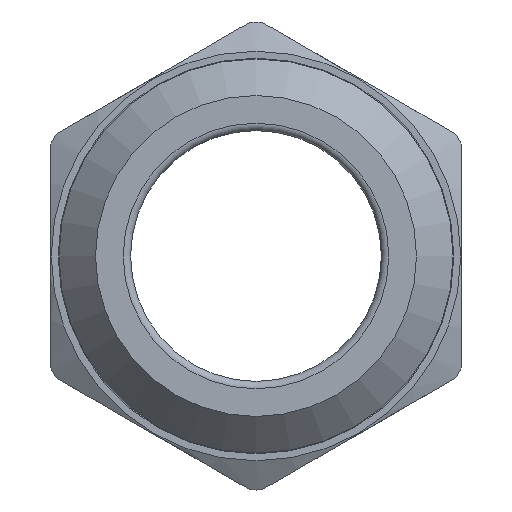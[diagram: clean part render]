
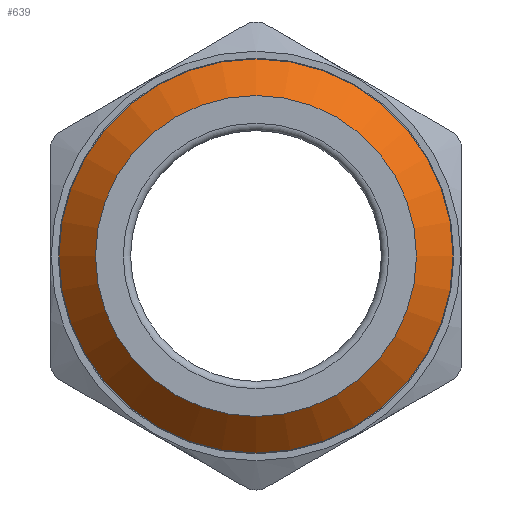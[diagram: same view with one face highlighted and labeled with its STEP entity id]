
A CAD part, front view. The second image highlights one B-rep face of the part: STEP entity #639.
In plain terms, the highlighted conical face has half-angle 45 degrees and reference radius 6.21 mm.
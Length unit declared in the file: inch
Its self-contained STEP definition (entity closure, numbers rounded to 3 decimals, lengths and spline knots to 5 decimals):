
#86=FACE_OUTER_BOUND('',#128,.T.);
#128=EDGE_LOOP('',(#504,#505,#506,#507,#508));
#160=LINE('',#1081,#186);
#186=VECTOR('',#882,0.2445);
#233=CIRCLE('',#720,0.2195);
#236=CIRCLE('',#725,0.2695);
#237=CIRCLE('',#726,0.2695);
#289=VERTEX_POINT('',#1071);
#292=VERTEX_POINT('',#1080);
#293=VERTEX_POINT('',#1082);
#366=EDGE_CURVE('',#289,#289,#233,.T.);
#370=EDGE_CURVE('',#289,#292,#160,.T.);
#371=EDGE_CURVE('',#292,#293,#236,.T.);
#372=EDGE_CURVE('',#293,#292,#237,.T.);
#504=ORIENTED_EDGE('',*,*,#366,.T.);
#505=ORIENTED_EDGE('',*,*,#370,.T.);
#506=ORIENTED_EDGE('',*,*,#371,.T.);
#507=ORIENTED_EDGE('',*,*,#372,.T.);
#508=ORIENTED_EDGE('',*,*,#370,.F.);
#620=CONICAL_SURFACE('',#724,0.2445,0.785);
#639=ADVANCED_FACE('',(#86),#620,.T.);
#720=AXIS2_PLACEMENT_3D('',#1072,#871,#872);
#724=AXIS2_PLACEMENT_3D('',#1079,#880,#881);
#725=AXIS2_PLACEMENT_3D('',#1083,#883,#884);
#726=AXIS2_PLACEMENT_3D('',#1084,#885,#886);
#871=DIRECTION('center_axis',(0.,1.,0.));
#872=DIRECTION('ref_axis',(0.,0.,1.));
#880=DIRECTION('center_axis',(0.,1.,0.));
#881=DIRECTION('ref_axis',(0.,0.,1.));
#882=DIRECTION('',(0.,0.707,-0.707));
#883=DIRECTION('center_axis',(0.,-1.,0.));
#884=DIRECTION('ref_axis',(0.,0.,1.));
#885=DIRECTION('center_axis',(0.,-1.,0.));
#886=DIRECTION('ref_axis',(0.,0.,1.));
#1071=CARTESIAN_POINT('',(0.,-0.785,-0.2195));
#1072=CARTESIAN_POINT('Origin',(0.,-0.785,0.));
#1079=CARTESIAN_POINT('Origin',(0.,-0.76,0.));
#1080=CARTESIAN_POINT('',(0.,-0.735,-0.2695));
#1081=CARTESIAN_POINT('',(0.,-0.76,-0.2445));
#1082=CARTESIAN_POINT('',(0.,-0.735,0.2695));
#1083=CARTESIAN_POINT('Origin',(0.,-0.735,0.));
#1084=CARTESIAN_POINT('Origin',(0.,-0.735,0.));
